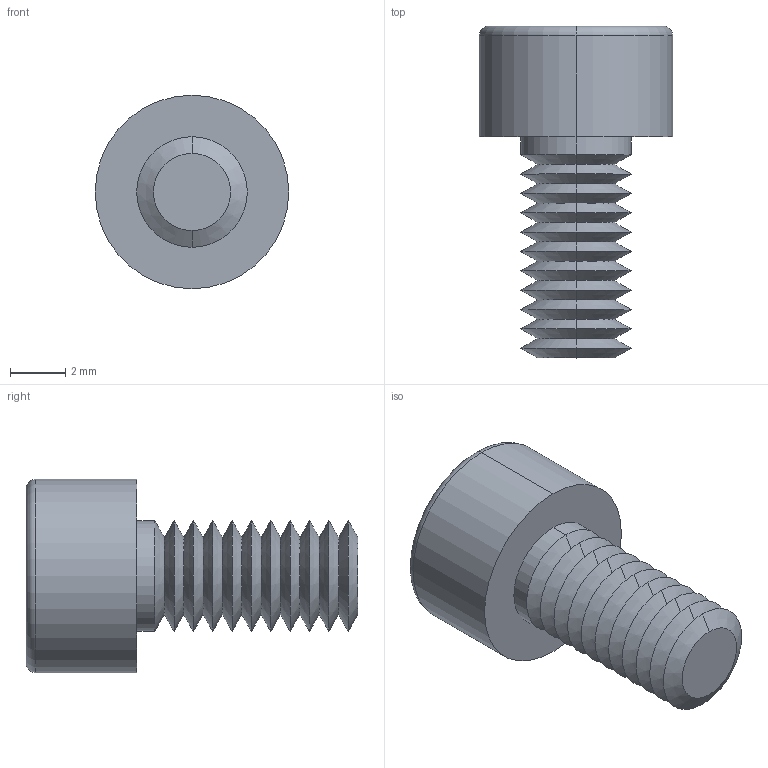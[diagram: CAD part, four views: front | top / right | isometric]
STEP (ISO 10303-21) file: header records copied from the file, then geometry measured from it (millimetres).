
FILE_DESCRIPTION (( 'STEP AP203' ), '1' );
FILE_NAME ('91N.040.0080.step', '2025-05-20T08:50:35', ( '' ), ( '' ), 'SwSTEP 2.0', 'SolidWorks 2019', '' );
FILE_SCHEMA (( 'CONFIG_CONTROL_DESIGN' ));
Length unit declared in the file: millimetre
Products named in the file (1): 91N.040.0080
Bounding box: 7 x 12 x 7 mm (x, y, z)
Volume: 203.3 mm3; surface area: 351.9 mm2
Topology: 1 solids, 1 shells, 72 faces, 143 edges, 73 vertices
Faces by surface type: cone 51, plane 15, cylinder 4, torus 2
Entity records: 1878 total; most frequent: DIRECTION 347, CARTESIAN_POINT 314, ORIENTED_EDGE 282, EDGE_CURVE 141, AXIS2_PLACEMENT_3D 140, EDGE_LOOP 74, VERTEX_POINT 73, ADVANCED_FACE 72
